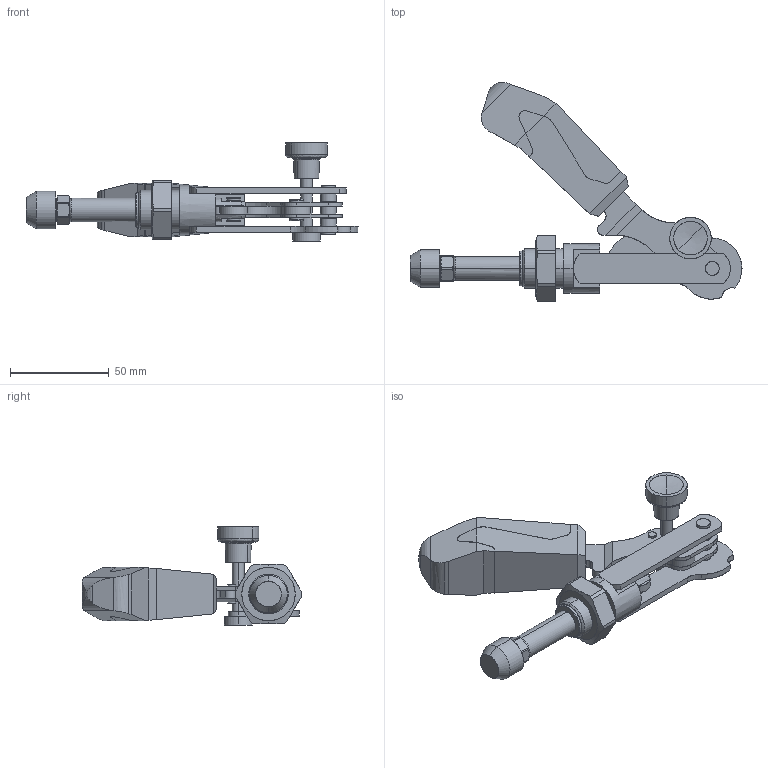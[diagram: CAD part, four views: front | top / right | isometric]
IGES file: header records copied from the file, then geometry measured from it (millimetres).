
Start section: SolidWorks IGES file using analytic representation for surfaces
Global section: file name: C:\Documents and Settings\IANO\My Documents\Wix and Auto CAD Work\CAD Models\Parametric Models\Wix Models\40000\AMF_CAD_2016\41895_v2\41895_v2_20160413_IGES\Default.igs; native system: SolidWorks 2009; preprocessor: SolidWorks 2009; author: IANO; date: 160413.100106; units: millimetre
Bounding box: 168 x 111 x 49.7 mm (x, y, z)
Surface area: 39825.9 mm2 (no closed solid volume)
Topology: 0 solids, 0 shells, 342 faces, 5224 edges, 5222 vertices
Faces by surface type: revolution 190, bspline 152
